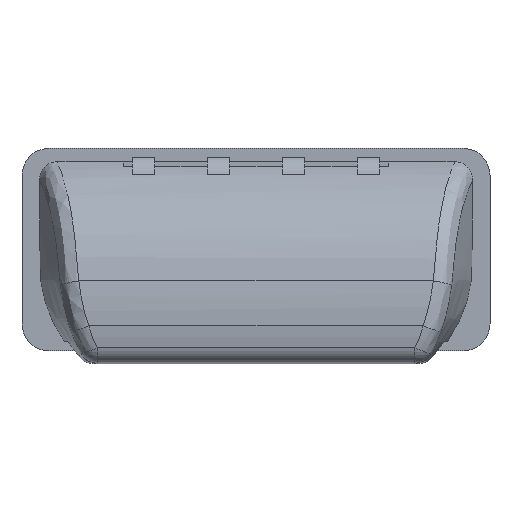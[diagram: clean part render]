
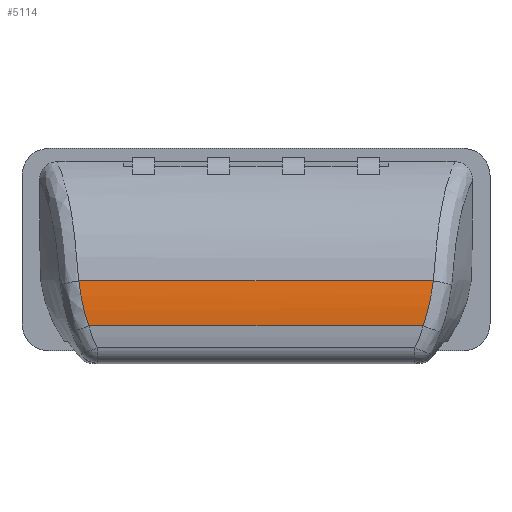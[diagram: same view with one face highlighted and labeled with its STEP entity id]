
A CAD part, top view. The second image highlights one B-rep face of the part: STEP entity #5114.
In plain terms, the highlighted free-form (B-spline) face has degree [3, 1] with [4, 2] control points.
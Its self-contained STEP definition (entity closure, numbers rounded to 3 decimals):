
#387 = B_SPLINE_SURFACE_WITH_KNOTS ( 'NONE', 3, 1, ( 
 ( #5221, #557 ),
 ( #494, #4761 ),
 ( #2011, #2397 ),
 ( #1560, #5646 ) ),
 .UNSPECIFIED., .F., .F., .F.,
 ( 4, 4 ),
 ( 2, 2 ),
 ( 0., 1. ),
 ( 0., 1. ),
 .UNSPECIFIED. ) ;
#420 = CARTESIAN_POINT ( 'NONE',  ( -25.21, -7., 19.67 ) ) ;
#494 = CARTESIAN_POINT ( 'NONE',  ( -104.487, -10.311, 20.162 ) ) ;
#506 = CARTESIAN_POINT ( 'NONE',  ( -26.473, -13.812, 20.295 ) ) ;
#520 = CARTESIAN_POINT ( 'NONE',  ( -27.435, -17., 20.227 ) ) ;
#557 = CARTESIAN_POINT ( 'NONE',  ( -24.737, -7., 19.67 ) ) ;
#800 = EDGE_CURVE ( 'NONE', #1724, #2605, #2961, .T. ) ;
#1086 = LINE ( 'NONE', #3811, #1558 ) ;
#1127 = CARTESIAN_POINT ( 'NONE',  ( -25.21, -7., 19.67 ) ) ;
#1198 = EDGE_CURVE ( 'NONE', #1969, #5540, #1615, .T. ) ;
#1301 = EDGE_CURVE ( 'NONE', #1724, #1969, #1086, .T. ) ;
#1451 = CARTESIAN_POINT ( 'NONE',  ( -25.434, -8.758, 19.931 ) ) ;
#1531 = EDGE_LOOP ( 'NONE', ( #3929, #2723, #2895, #5704 ) ) ;
#1558 = VECTOR ( 'NONE', #4832, 1000. ) ;
#1560 = CARTESIAN_POINT ( 'NONE',  ( -104.487, -17., 20.227 ) ) ;
#1615 = B_SPLINE_CURVE_WITH_KNOTS ( 'NONE', 3,
 ( #3194, #4646, #506, #2343, #1451, #420 ),
 .UNSPECIFIED., .F., .F.,
 ( 4, 2, 4 ),
 ( 0., 0.5, 1. ),
 .UNSPECIFIED. ) ;
#1724 = VERTEX_POINT ( 'NONE', #2341 ) ;
#1969 = VERTEX_POINT ( 'NONE', #520 ) ;
#1996 = LINE ( 'NONE', #3197, #4906 ) ;
#2011 = CARTESIAN_POINT ( 'NONE',  ( -104.487, -13.658, 20.388 ) ) ;
#2145 = EDGE_CURVE ( 'NONE', #2605, #5540, #1996, .T. ) ;
#2300 = CARTESIAN_POINT ( 'NONE',  ( -102.877, -13.711, 20.385 ) ) ;
#2341 = CARTESIAN_POINT ( 'NONE',  ( -101.789, -17., 20.227 ) ) ;
#2343 = CARTESIAN_POINT ( 'NONE',  ( -25.731, -10.475, 20.109 ) ) ;
#2397 = CARTESIAN_POINT ( 'NONE',  ( -24.737, -13.658, 20.388 ) ) ;
#2605 = VERTEX_POINT ( 'NONE', #5247 ) ;
#2658 = CARTESIAN_POINT ( 'NONE',  ( -104.014, -7., 19.67 ) ) ;
#2685 = CARTESIAN_POINT ( 'NONE',  ( -103.591, -10.328, 20.165 ) ) ;
#2723 = ORIENTED_EDGE ( 'NONE', *, *, #1198, .T. ) ;
#2895 = ORIENTED_EDGE ( 'NONE', *, *, #2145, .F. ) ;
#2961 = B_SPLINE_CURVE_WITH_KNOTS ( 'NONE', 3,
 ( #5894, #2300, #2685, #2658 ),
 .UNSPECIFIED., .F., .F.,
 ( 4, 4 ),
 ( 0., 1. ),
 .UNSPECIFIED. ) ;
#3194 = CARTESIAN_POINT ( 'NONE',  ( -27.435, -17., 20.227 ) ) ;
#3197 = CARTESIAN_POINT ( 'NONE',  ( -112.612, -7., 19.67 ) ) ;
#3811 = CARTESIAN_POINT ( 'NONE',  ( -112.612, -17., 20.227 ) ) ;
#3929 = ORIENTED_EDGE ( 'NONE', *, *, #1301, .T. ) ;
#4305 = FACE_OUTER_BOUND ( 'NONE', #1531, .T. ) ;
#4646 = CARTESIAN_POINT ( 'NONE',  ( -26.917, -15.433, 20.302 ) ) ;
#4683 = DIRECTION ( 'NONE',  ( 1., 0., 0. ) ) ;
#4761 = CARTESIAN_POINT ( 'NONE',  ( -24.737, -10.311, 20.162 ) ) ;
#4832 = DIRECTION ( 'NONE',  ( 1., 0., 0. ) ) ;
#4906 = VECTOR ( 'NONE', #4683, 1000. ) ;
#5114 = ADVANCED_FACE ( 'NONE', ( #4305 ), #387, .T. ) ;
#5221 = CARTESIAN_POINT ( 'NONE',  ( -104.487, -7., 19.67 ) ) ;
#5247 = CARTESIAN_POINT ( 'NONE',  ( -104.014, -7., 19.67 ) ) ;
#5540 = VERTEX_POINT ( 'NONE', #1127 ) ;
#5646 = CARTESIAN_POINT ( 'NONE',  ( -24.737, -17., 20.227 ) ) ;
#5704 = ORIENTED_EDGE ( 'NONE', *, *, #800, .F. ) ;
#5894 = CARTESIAN_POINT ( 'NONE',  ( -101.789, -17., 20.227 ) ) ;
